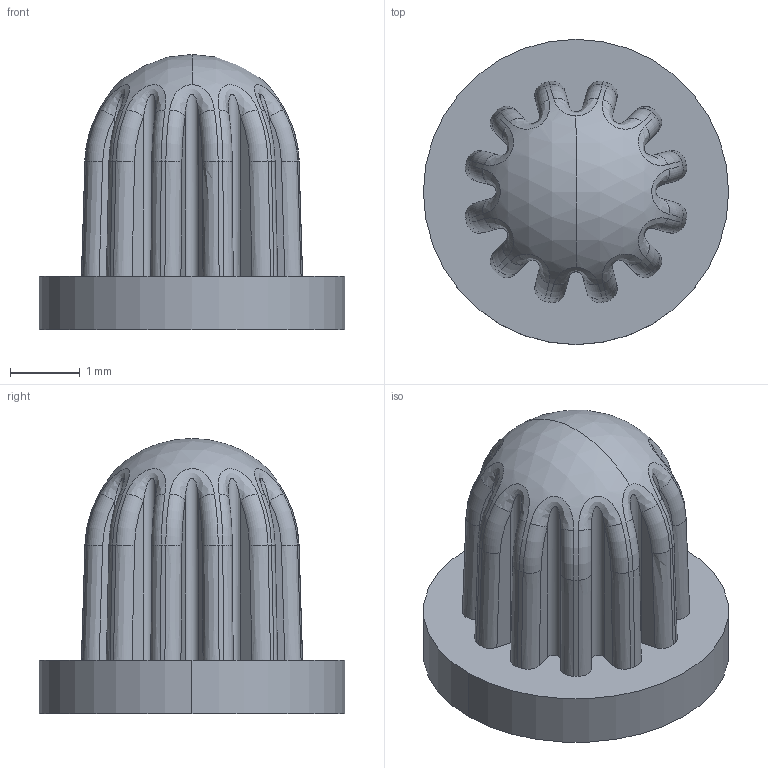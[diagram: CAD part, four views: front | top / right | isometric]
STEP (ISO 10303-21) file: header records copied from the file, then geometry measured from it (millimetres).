
FILE_DESCRIPTION (( 'STEP AP214' ), '1' );
FILE_NAME ('3DFSFA1700200A.STEP', '2021-03-31T18:12:31', ( '' ), ( '' ), 'SwSTEP 2.0', 'SolidWorks 2019', '' );
FILE_SCHEMA (( 'AUTOMOTIVE_DESIGN' ));
Length unit declared in the file: inch
Products named in the file (1): 3DFSFA1700200A
Bounding box: 4.37 x 4.37 x 3.94 mm (x, y, z)
Volume: 28.7 mm3; surface area: 78.8 mm2
Topology: 1 solids, 1 shells, 289 faces, 748 edges, 483 vertices
Faces by surface type: plane 139, bspline 93, torus 24, cylinder 19, cone 12, sphere 2
Entity records: 16006 total; most frequent: CARTESIAN_POINT 7265, ORIENTED_EDGE 1496, DIRECTION 1068, EDGE_CURVE 748, VERTEX_POINT 483, VECTOR 388, LINE 388, AXIS2_PLACEMENT_3D 340
